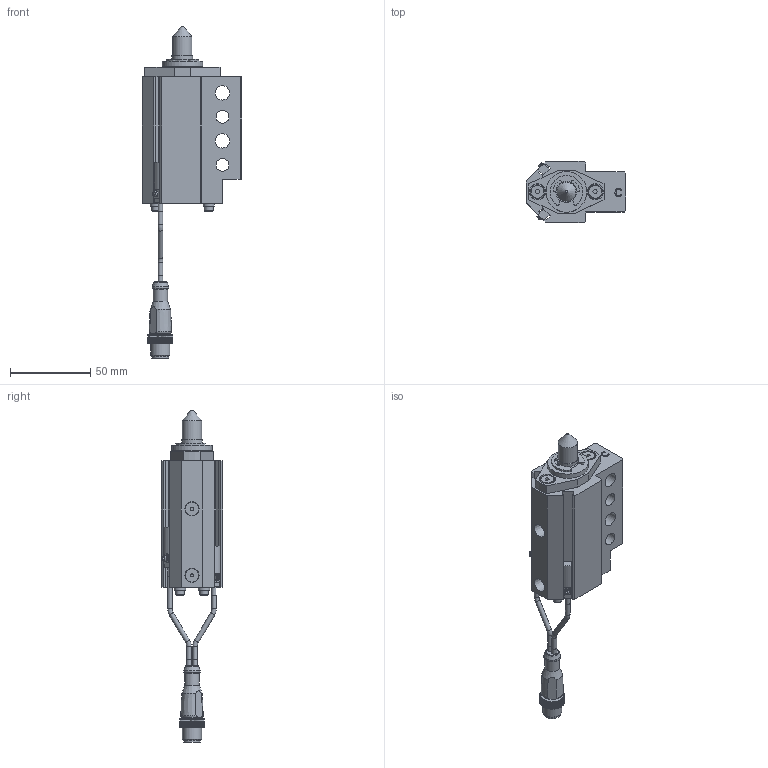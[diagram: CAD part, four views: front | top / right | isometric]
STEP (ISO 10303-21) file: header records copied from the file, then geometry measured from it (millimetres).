
FILE_DESCRIPTION(/* description */ ('NAAMS FLOATING MICRO PIN'),/* implementation_level */ '2;1');
FILE_NAME(/* name */ 'C:\Vault Workspace\CAD\Welker\Shot Pin\NMP\NMP120012ACNL3.stp',/* time_stamp */ '2021-01-27T10:14:15-05:00',/* author */ ('WELKER'),/* organization */ (''),/* preprocessor_version */ 'ST-DEVELOPER v18.1',/* originating_system */ 'Autodesk Inventor 2020',/* authorisation */ '');
FILE_SCHEMA (('AUTOMOTIVE_DESIGN { 1 0 10303 214 3 1 1 }'));
Length unit declared in the file: millimetre
Products named in the file (16): NMPL01; NMP L3 SWITCH; L3 Connector; L3 Sensor 1; L3 Sensor 2; L3 Sensor cable; L3 Sensor cable 2; M3X0.5-8 SHCS; NL3; NMPE06; NMPE03; NMPE05-DIA-LENGTH; 985432A218; NMPE01C-PORT; RMPE02; M5X5 SHOULDER
Assembly tree (22 placements, depth 3):
  NMPL01
    NMP L3 SWITCH
      L3 Connector
      L3 Sensor 1
      L3 Sensor 2
      L3 Sensor cable
      L3 Sensor cable 2
    M3X0.5-8 SHCS  x4
    NL3  x4
    NMPE06
    NMPE03
    NMPE05-DIA-LENGTH
    985432A218
    NMPE01C-PORT
    RMPE02
    M5X5 SHOULDER  x2
Bounding box: 62 x 38.1 x 207.12 mm (x, y, z)
Volume: 111013.4 mm3; surface area: 45385.6 mm2
Topology: 21 solids, 21 shells, 752 faces, 2040 edges, 1364 vertices
Faces by surface type: plane 545, cylinder 144, cone 31, bspline 18, torus 11, sphere 3
Full cylindrical faces by diameter (mm): 2 x2, 2.459 x4, 2.9 x10, 3 x5, 3.242 x2, 3.4 x4, 4 x2, 5 x6, 5.5 x4, 7 x4, 8 x2, 8.3 x2, 9 x5, 10 x3, 10.4 x1, 10.5 x1, 12 x2, 13 x3, 16 x2, 19.05 x3, 21 x1, 22.5 x1, 23.672 x1, 24 x1, 25.4 x1, 25.5 x1, 26.5 x1, 28.677 x1, 29.21 x1, 31.75 x2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
Entity records: 23061 total; most frequent: CARTESIAN_POINT 4367, ORIENTED_EDGE 3778, DIRECTION 3695, EDGE_CURVE 1889, LINE 1377, VECTOR 1377, VERTEX_POINT 1269, AXIS2_PLACEMENT_3D 1159
